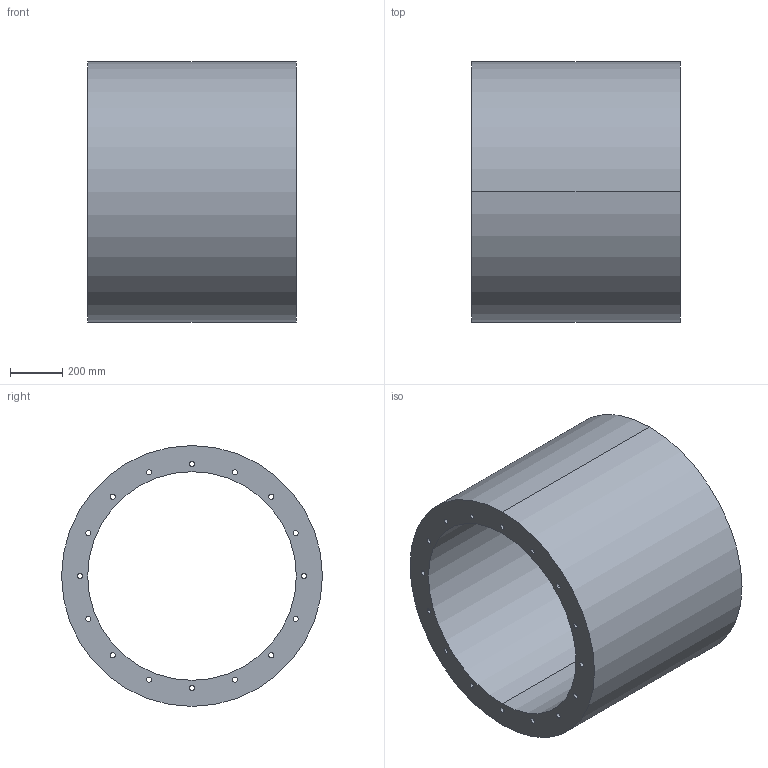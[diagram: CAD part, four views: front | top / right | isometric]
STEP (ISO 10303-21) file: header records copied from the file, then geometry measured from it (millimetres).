
FILE_DESCRIPTION(('STEP AP214'),'1');
FILE_NAME('accessory_5211811900.stp','2017-10-09T11:37:22',('TraceParts'),('TraceParts S.A.'),'Spatial InterOp 3D',' ',' ');
FILE_SCHEMA(('automotive_design'));
Length unit declared in the file: millimetre
Products named in the file (1): accessory_5211811900
Bounding box: 800 x 1000 x 1000 mm (x, y, z)
Volume: 222173432.5 mm3; surface area: 5883574.7 mm2
Topology: 1 solids, 1 shells, 38 faces, 108 edges, 72 vertices
Faces by surface type: cylinder 36, plane 2
Entity records: 1672 total; most frequent: DIRECTION 258, CARTESIAN_POINT 219, ORIENTED_EDGE 216, AXIS2_PLACEMENT_3D 111, EDGE_CURVE 108, EDGE_LOOP 72, VERTEX_POINT 72, CIRCLE 72
